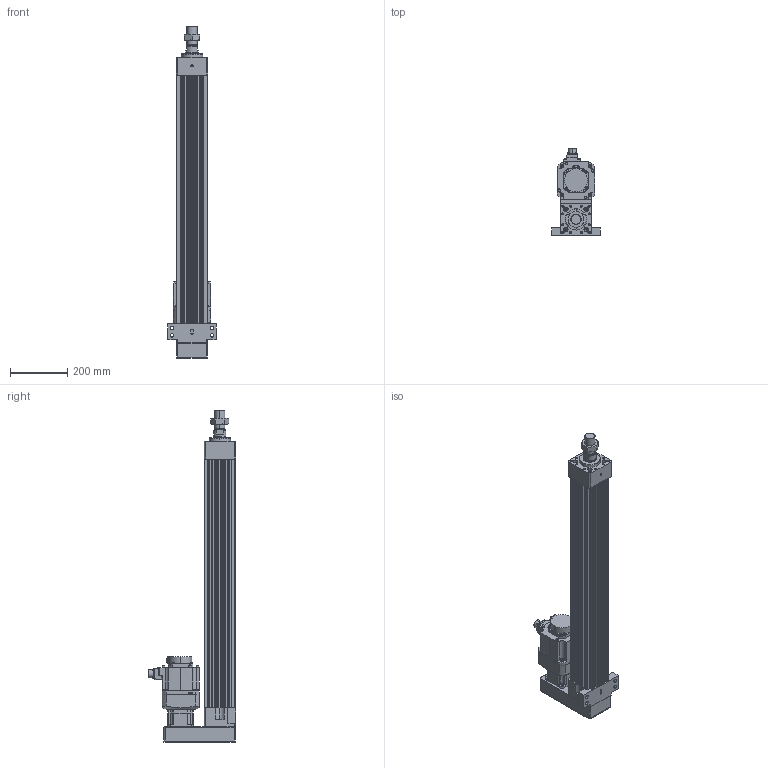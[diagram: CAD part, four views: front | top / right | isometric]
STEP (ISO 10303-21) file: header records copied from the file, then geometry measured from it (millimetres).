
FILE_DESCRIPTION (( 'STEP AP203' ), '1' );
FILE_NAME ('HES110NS(HS)-P700-W010G00-M-FFC.STEP', '2023-01-26T10:29:17', ( 'tms' ), ( '' ), 'SwSTEP 2.0', 'SolidWorks 2013', '' );
FILE_SCHEMA (( 'CONFIG_CONTROL_DESIGN' ));
Length unit declared in the file: millimetre
Products named in the file (8): AB0901; HG-SR102; HES110 ROD M ST700; P0401301004; M36X1.5P; AB090-003[HG-SR102B]; HES110NS(HS)-P700-W010G00-M-FFC; HES110-P700-G090-FFC
Assembly tree (7 placements, depth 3):
  HES110NS(HS)-P700-W010G00-M-FFC
    HES110-P700-G090-FFC
    HES110 ROD M ST700
    M36X1.5P
    AB090-003[HG-SR102B]
      AB0901
      P0401301004
    HG-SR102
Bounding box: 170 x 304.99 x 1163 mm (x, y, z)
Volume: 9887858.4 mm3; surface area: 1327960.9 mm2
Topology: 4 solids, 11 shells, 1111 faces, 2835 edges, 1826 vertices
Faces by surface type: cylinder 519, plane 486, cone 94, bspline 8, torus 4
Entity records: 35472 total; most frequent: CARTESIAN_POINT 6938, DIRECTION 6110, ORIENTED_EDGE 5574, EDGE_CURVE 2797, AXIS2_PLACEMENT_3D 2269, VERTEX_POINT 1826, LINE 1572, VECTOR 1572
